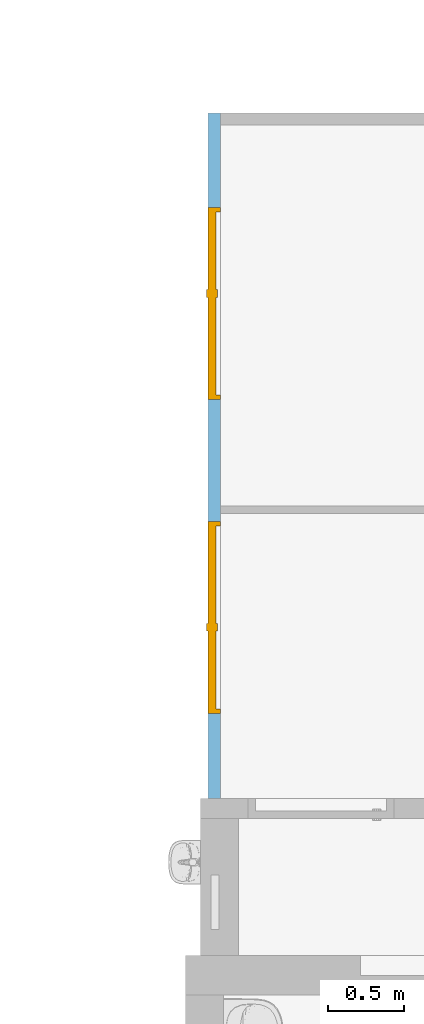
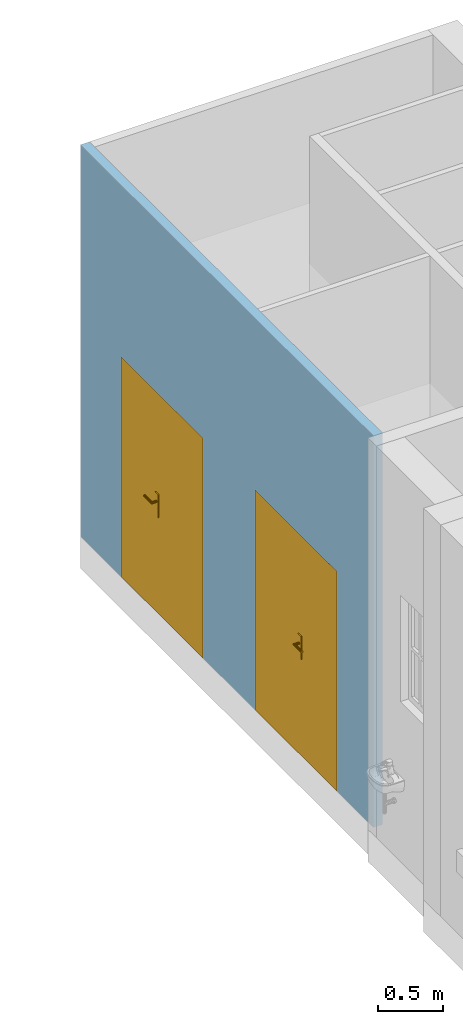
"""IFC4 building model written with IfcOpenShell, lengths in metres."""

from ifc_helpers import new_model, entity, si_unit, converted_unit, derived_unit, frame, frame_2d, origin, origin_with_axes, place, context, subcontext, project, spatial, polyline, rectangle, outline, extrude, faceted_brep, source, transform, mapped, material, layer, layer_set, layer_usage, type_object, element, fill, save


model = new_model("IFC4")

# Units and contexts
model_context = context("Model", 3, precision=1e-05, world=origin())
body_context = subcontext(model_context, "Body", "Model", "MODEL_VIEW")
ifc_project = project(units=[si_unit("LENGTHUNIT", "METRE"), si_unit("AREAUNIT", "SQUARE_METRE"), si_unit("VOLUMEUNIT", "CUBIC_METRE"), si_unit("MASSUNIT", "GRAM", prefix="KILO"), converted_unit("PLANEANGLEUNIT", "DEGREE", entity("IfcPlaneAngleMeasure", 0.0174532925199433), si_unit("PLANEANGLEUNIT", "RADIAN"), dimensions=[0, 0, 0, 0, 0, 0, 0]), derived_unit("THERMALTRANSMITTANCEUNIT", [(si_unit("POWERUNIT", "WATT"), 1), (si_unit("THERMODYNAMICTEMPERATUREUNIT", "KELVIN"), -1), (si_unit("LENGTHUNIT", "METRE"), -2)]), derived_unit("VOLUMETRICFLOWRATEUNIT", [(si_unit("LENGTHUNIT", "METRE"), 3), (converted_unit("TIMEUNIT", "hour", entity("IfcTimeMeasure", 3600.0), si_unit("TIMEUNIT", "SECOND"), dimensions=[0, 0, 1, 0, 0, 0, 0]), -1), (si_unit("LENGTHUNIT", "METRE"), -1)])], contexts=[model_context])

# Building, storeys
building_placement = place(None, origin())
building = spatial("IfcBuilding", under=ifc_project, at=building_placement, Name="Bestandsgebäude A - Sporthalle / Wohnhaus (TB 100-499)   ANPASSEN !!!", CompositionType="ELEMENT")
storey_1_placement = place(building_placement, origin())
storey_1 = spatial("IfcBuildingStorey", under=building, at=storey_1_placement, Name="Geb. A Erdgeschoss (TB 200-249)", CompositionType="ELEMENT", Elevation=0.0)
storey_2_placement = place(storey_1_placement, origin())
storey_2 = spatial("IfcBuildingStorey", under=storey_1, at=storey_2_placement, Name="Architektur (TB 200-209)", CompositionType="PARTIAL")

# Wall, openings, doors
ifc_material = material(Name="concrete")
ifc_layer = layer(ifc_material, 0.08)
ifc_layer_set = layer_set([ifc_layer])
ifc_layer_usage = layer_usage(ifc_layer_set, "AXIS2", "POSITIVE", 0.0)
wall_placement = place(storey_2_placement, frame((-3.34, 21.76, 0.0), z_axis=(0.0, 0.0, 1.0), x_axis=(0.0, -1.0, 0.0)))
wall = element("IfcWall", 1, at=wall_placement, inside=storey_2, material=ifc_layer_usage, Name="reinforced - bearing", PredefinedType="USERDEFINED", context=body_context, shape_type="SweptSolid", body=[
    extrude(rectangle(XDim=4.50000000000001, YDim=0.08, at=frame_2d((2.25, 0.04), x_axis=(1.0, 0.0))), origin_with_axes(), (0.0, 0.0, 1.0), 3.67),
])
opening_1_placement = place(wall_placement, frame((3.94, 0.08, 0.0), z_axis=(0.0, -1.0, 0.0), x_axis=(0.0, 0.0, 1.0)))
opening_1 = element("IfcOpeningElement", 2, at=opening_1_placement, cuts=wall, Name="Door opening", PredefinedType="OPENING", context=body_context, shape_type="SweptSolid", body=[
    extrude(outline(polyline([(2.06, 1.26), (2.06, 0.0), (0.0, 0.0), (0.0, 1.26), (2.06, 1.26)])), origin_with_axes(), (0.0, 0.0, 1.0), 0.08),
])
opening_2_placement = place(wall_placement, frame((1.87999999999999, 0.08, 0.0), z_axis=(0.0, -1.0, 0.0), x_axis=(0.0, 0.0, 1.0)))
opening_2 = element("IfcOpeningElement", 3, at=opening_2_placement, cuts=wall, Name="Door opening", PredefinedType="OPENING", context=body_context, shape_type="SweptSolid", body=[
    extrude(outline(polyline([(2.06, 1.26), (2.06, 0.0), (0.0, 0.0), (0.0, 1.26), (2.06, 1.26)])), origin_with_axes(), (0.0, 0.0, 1.0), 0.08),
])
door_type_1 = type_object("IfcDoorType", Name="door", OperationType="DOUBLE_DOOR_SINGLE_SWING", ParameterTakesPrecedence=False, PredefinedType="DOOR")
shared_shape_1 = source(origin_with_axes(), body_context, "Body", "Brep", [
    faceted_brep([(0.0, 0.0799999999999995, 2.06), (0.0, 0.0799999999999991, 0.0), (0.0299999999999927, 0.0799999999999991, 0.0), (0.0299999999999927, 0.0799999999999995, 2.06), (0.0, 0.0, 0.0), (0.0, 0.0, 2.06), (0.0299999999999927, 0.0, 2.06), (0.0299999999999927, 0.0, 0.0)], [[[0, 1, 2, 3]], [[4, 5, 6, 7]], [[1, 0, 5, 4]], [[2, 1, 4, 7]], [[3, 2, 7, 6]], [[0, 3, 6, 5]]], orient=[[False], [False], [False], [False], [False], [False]]),
    faceted_brep([(1.23, 0.0799999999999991, 2.06), (1.23, 0.0799999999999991, 0.0), (1.26, 0.0799999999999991, 0.0), (1.26, 0.0799999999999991, 2.06), (1.23, 0.0, 0.0), (1.23, 0.0, 2.06), (1.26, 0.0, 2.06), (1.26, 0.0, 0.0)], [[[0, 1, 2, 3]], [[4, 5, 6, 7]], [[1, 0, 5, 4]], [[2, 1, 4, 7]], [[3, 2, 7, 6]], [[0, 3, 6, 5]]], orient=[[False], [False], [False], [False], [False], [False]]),
    faceted_brep([(0.0299999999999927, 0.0799999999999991, 2.06), (0.0299999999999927, 0.0799999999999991, 2.03), (1.23, 0.0799999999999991, 2.03), (1.23, 0.0799999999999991, 2.06), (0.0299999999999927, 0.0, 2.03), (0.0299999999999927, 0.0, 2.06), (1.23, 0.0, 2.06), (1.23, 0.0, 2.03)], [[[0, 1, 2, 3]], [[4, 5, 6, 7]], [[1, 0, 5, 4]], [[2, 1, 4, 7]], [[3, 2, 7, 6]], [[0, 3, 6, 5]]], orient=[[False], [False], [False], [False], [False], [False]]),
    faceted_brep([(0.0299999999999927, 0.0799999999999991, 2.03), (0.0299999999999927, 0.0799999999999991, 0.0), (0.629499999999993, 0.0799999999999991, 0.0), (0.629499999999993, 0.0799999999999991, 2.03), (0.0299999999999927, 0.0299999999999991, 0.0), (0.0299999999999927, 0.0299999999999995, 2.03), (0.629499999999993, 0.0299999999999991, 2.03), (0.629499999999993, 0.0299999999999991, 0.0)], [[[0, 1, 2, 3]], [[4, 5, 6, 7]], [[1, 0, 5, 4]], [[2, 1, 4, 7]], [[3, 2, 7, 6]], [[0, 3, 6, 5]]], orient=[[False], [False], [False], [False], [False], [False]]),
    faceted_brep([(0.539499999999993, 0.0299999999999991, 1.125), (0.539499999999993, 0.0299999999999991, 0.91), (0.589499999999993, 0.0299999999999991, 0.91), (0.589499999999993, 0.0299999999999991, 1.125), (0.539499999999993, 0.0199999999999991, 0.91), (0.539499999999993, 0.0199999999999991, 1.125), (0.589499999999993, 0.0199999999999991, 1.125), (0.589499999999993, 0.0199999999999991, 0.91)], [[[0, 1, 2, 3]], [[4, 5, 6, 7]], [[1, 0, 5, 4]], [[2, 1, 4, 7]], [[3, 2, 7, 6]], [[0, 3, 6, 5]]], orient=[[False], [False], [False], [False], [False], [False]]),
    faceted_brep([(0.564499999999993, 0.0199999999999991, 1.06), (0.559499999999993, 0.0199999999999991, 1.05866025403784), (0.555839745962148, 0.0199999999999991, 1.055), (0.554499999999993, 0.0199999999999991, 1.05), (0.555839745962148, 0.0199999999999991, 1.045), (0.559499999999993, 0.0199999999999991, 1.04133974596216), (0.564499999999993, 0.0199999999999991, 1.04), (0.569499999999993, 0.0199999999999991, 1.04133974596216), (0.573160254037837, 0.0199999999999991, 1.045), (0.574499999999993, 0.0199999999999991, 1.05), (0.573160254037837, 0.0199999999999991, 1.055), (0.569499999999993, 0.0199999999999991, 1.05866025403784), (0.569499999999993, -0.0250000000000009, 1.05866025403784), (0.564499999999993, -0.0200000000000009, 1.06), (0.573160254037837, -0.0286602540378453, 1.055), (0.574499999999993, -0.0300000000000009, 1.05), (0.573160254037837, -0.0286602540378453, 1.045), (0.569499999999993, -0.0250000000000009, 1.04133974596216), (0.564499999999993, -0.0200000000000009, 1.04), (0.559499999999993, -0.0150000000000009, 1.04133974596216), (0.555839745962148, -0.0113397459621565, 1.045), (0.554499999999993, -0.0100000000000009, 1.05), (0.555839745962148, -0.0113397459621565, 1.055), (0.559499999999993, -0.0150000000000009, 1.05866025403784), (0.449499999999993, -0.0200000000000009, 1.06), (0.449499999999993, -0.0250000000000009, 1.05866025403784), (0.449499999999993, -0.0286602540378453, 1.055), (0.449499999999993, -0.0300000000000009, 1.05), (0.449499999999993, -0.0286602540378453, 1.045), (0.449499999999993, -0.0250000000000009, 1.04133974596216), (0.449499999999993, -0.0200000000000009, 1.04), (0.449499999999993, -0.0150000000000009, 1.04133974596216), (0.449499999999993, -0.0113397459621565, 1.045), (0.449499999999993, -0.0100000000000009, 1.05), (0.449499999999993, -0.0113397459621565, 1.055), (0.449499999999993, -0.0150000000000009, 1.05866025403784)], [[[0, 1, 2, 3, 4, 5, 6, 7, 8, 9, 10, 11]], [[0, 11, 12, 13]], [[11, 10, 14, 12]], [[10, 9, 15, 14]], [[9, 8, 16, 15]], [[8, 7, 17, 16]], [[7, 6, 18, 17]], [[6, 5, 19, 18]], [[5, 4, 20, 19]], [[4, 3, 21, 20]], [[3, 2, 22, 21]], [[2, 1, 23, 22]], [[1, 0, 13, 23]], [[24, 25, 26, 27, 28, 29, 30, 31, 32, 33, 34, 35]], [[13, 12, 25, 24]], [[12, 14, 26, 25]], [[14, 15, 27, 26]], [[15, 16, 28, 27]], [[16, 17, 29, 28]], [[17, 18, 30, 29]], [[18, 19, 31, 30]], [[19, 20, 32, 31]], [[20, 21, 33, 32]], [[21, 22, 34, 33]], [[22, 23, 35, 34]], [[23, 13, 24, 35]]], orient=[[False], [False], [False], [False], [False], [False], [False], [False], [False], [False], [False], [False], [False], [False], [False], [False], [False], [False], [False], [False], [False], [False], [False], [False], [False], [False]]),
    faceted_brep([(0.539499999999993, 0.0799999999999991, 1.125), (0.589499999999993, 0.0799999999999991, 1.125), (0.589499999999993, 0.0799999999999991, 0.91), (0.539499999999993, 0.0799999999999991, 0.91), (0.539499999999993, 0.0899999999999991, 0.91), (0.589499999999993, 0.0899999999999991, 0.91), (0.589499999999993, 0.0899999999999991, 1.125), (0.539499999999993, 0.0899999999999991, 1.125)], [[[0, 1, 2, 3]], [[4, 5, 6, 7]], [[3, 4, 7, 0]], [[2, 5, 4, 3]], [[1, 6, 5, 2]], [[0, 7, 6, 1]]], orient=[[False], [False], [False], [False], [False], [False]]),
    faceted_brep([(0.564499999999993, 0.0899999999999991, 1.06), (0.569499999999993, 0.0899999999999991, 1.05866025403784), (0.573160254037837, 0.0899999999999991, 1.055), (0.574499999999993, 0.0899999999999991, 1.05), (0.573160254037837, 0.0899999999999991, 1.045), (0.569499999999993, 0.0899999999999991, 1.04133974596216), (0.564499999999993, 0.0899999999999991, 1.04), (0.559499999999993, 0.0899999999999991, 1.04133974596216), (0.555839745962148, 0.0899999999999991, 1.045), (0.554499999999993, 0.0899999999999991, 1.05), (0.555839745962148, 0.0899999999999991, 1.055), (0.559499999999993, 0.0899999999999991, 1.05866025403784), (0.564499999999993, 0.129999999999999, 1.06), (0.569499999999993, 0.134999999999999, 1.05866025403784), (0.573160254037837, 0.138660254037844, 1.055), (0.574499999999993, 0.139999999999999, 1.05), (0.573160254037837, 0.138660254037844, 1.045), (0.569499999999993, 0.134999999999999, 1.04133974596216), (0.564499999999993, 0.129999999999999, 1.04), (0.559499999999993, 0.124999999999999, 1.04133974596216), (0.555839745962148, 0.121339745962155, 1.045), (0.554499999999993, 0.119999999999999, 1.05), (0.555839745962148, 0.121339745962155, 1.055), (0.559499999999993, 0.124999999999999, 1.05866025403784), (0.449499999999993, 0.129999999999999, 1.06), (0.449499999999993, 0.124999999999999, 1.05866025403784), (0.449499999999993, 0.121339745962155, 1.055), (0.449499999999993, 0.119999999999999, 1.05), (0.449499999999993, 0.121339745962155, 1.045), (0.449499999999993, 0.124999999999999, 1.04133974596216), (0.449499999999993, 0.129999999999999, 1.04), (0.449499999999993, 0.134999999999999, 1.04133974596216), (0.449499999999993, 0.138660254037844, 1.045), (0.449499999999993, 0.139999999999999, 1.05), (0.449499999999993, 0.138660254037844, 1.055), (0.449499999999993, 0.134999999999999, 1.05866025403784)], [[[0, 1, 2, 3, 4, 5, 6, 7, 8, 9, 10, 11]], [[0, 12, 13, 1]], [[1, 13, 14, 2]], [[2, 14, 15, 3]], [[3, 15, 16, 4]], [[4, 16, 17, 5]], [[5, 17, 18, 6]], [[6, 18, 19, 7]], [[7, 19, 20, 8]], [[8, 20, 21, 9]], [[9, 21, 22, 10]], [[10, 22, 23, 11]], [[11, 23, 12, 0]], [[24, 25, 26, 27, 28, 29, 30, 31, 32, 33, 34, 35]], [[12, 24, 35, 13]], [[13, 35, 34, 14]], [[14, 34, 33, 15]], [[15, 33, 32, 16]], [[16, 32, 31, 17]], [[17, 31, 30, 18]], [[18, 30, 29, 19]], [[19, 29, 28, 20]], [[20, 28, 27, 21]], [[21, 27, 26, 22]], [[22, 26, 25, 23]], [[23, 25, 24, 12]]], orient=[[False], [False], [False], [False], [False], [False], [False], [False], [False], [False], [False], [False], [False], [False], [False], [False], [False], [False], [False], [False], [False], [False], [False], [False], [False], [False]]),
    faceted_brep([(0.630499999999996, 0.0799999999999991, 2.03), (0.630499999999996, 0.0799999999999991, 0.0), (1.23, 0.0799999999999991, 0.0), (1.23, 0.0799999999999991, 2.03), (0.630499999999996, 0.0299999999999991, 0.0), (0.630499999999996, 0.0299999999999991, 2.03), (1.23, 0.0299999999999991, 2.03), (1.23, 0.0299999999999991, 0.0)], [[[0, 1, 2, 3]], [[4, 5, 6, 7]], [[1, 0, 5, 4]], [[2, 1, 4, 7]], [[3, 2, 7, 6]], [[0, 3, 6, 5]]], orient=[[False], [False], [False], [False], [False], [False]]),
])
door_1_placement = place(opening_1_placement, frame((0.0, 0.0, 0.0), z_axis=(1.0, 0.0, 0.0), x_axis=(0.0, 1.0, 0.0)))
door_1 = element("IfcDoor", 4, at=door_1_placement, inside=storey_2, type_object=door_type_1, Name="door", OverallHeight=2.06, OverallWidth=1.26, PredefinedType="DOOR", context=body_context, shape_type="MappedRepresentation", body=[
    mapped(shared_shape_1, transform((0.0, 0.0, 0.0), x_axis=(1.0, 0.0, 0.0), y_axis=(0.0, 1.0, 0.0), z_axis=(0.0, 0.0, 1.0), scale=1.0)),
])
fill(opening_1, door_1)
door_type_2 = type_object("IfcDoorType", Name="door", OperationType="DOUBLE_DOOR_SINGLE_SWING", ParameterTakesPrecedence=False, PredefinedType="DOOR")
shared_shape_2 = source(origin_with_axes(), body_context, "Body", "Brep", [
    faceted_brep([(1.26, 0.0799999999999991, 2.06), (1.23, 0.0799999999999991, 2.06), (1.23, 0.0799999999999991, 0.0), (1.26, 0.0799999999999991, 0.0), (1.26, 0.0, 0.0), (1.23, 0.0, 0.0), (1.23, 0.0, 2.06), (1.26, 0.0, 2.06)], [[[0, 1, 2, 3]], [[4, 5, 6, 7]], [[3, 4, 7, 0]], [[2, 5, 4, 3]], [[1, 6, 5, 2]], [[0, 7, 6, 1]]], orient=[[False], [False], [False], [False], [False], [False]]),
    faceted_brep([(0.0299999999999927, 0.0799999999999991, 2.06), (0.0, 0.0799999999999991, 2.06), (0.0, 0.0799999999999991, 0.0), (0.0299999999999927, 0.0799999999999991, 0.0), (0.0299999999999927, 0.0, 0.0), (0.0, 0.0, 0.0), (0.0, 0.0, 2.06), (0.0299999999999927, 0.0, 2.06)], [[[0, 1, 2, 3]], [[4, 5, 6, 7]], [[3, 4, 7, 0]], [[2, 5, 4, 3]], [[1, 6, 5, 2]], [[0, 7, 6, 1]]], orient=[[False], [False], [False], [False], [False], [False]]),
    faceted_brep([(1.23, 0.0799999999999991, 2.06), (0.0299999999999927, 0.0799999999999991, 2.06), (0.0299999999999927, 0.0799999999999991, 2.03), (1.23, 0.0799999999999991, 2.03), (1.23, 0.0, 2.03), (0.0299999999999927, 0.0, 2.03), (0.0299999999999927, 0.0, 2.06), (1.23, 0.0, 2.06)], [[[0, 1, 2, 3]], [[4, 5, 6, 7]], [[3, 4, 7, 0]], [[2, 5, 4, 3]], [[1, 6, 5, 2]], [[0, 7, 6, 1]]], orient=[[False], [False], [False], [False], [False], [False]]),
    faceted_brep([(1.23, 0.0799999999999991, 2.03), (0.630499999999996, 0.0799999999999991, 2.03), (0.630499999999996, 0.0799999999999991, 0.0), (1.23, 0.0799999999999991, 0.0), (1.23, 0.0299999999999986, 0.0), (0.630499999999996, 0.0299999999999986, 0.0), (0.630499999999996, 0.0299999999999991, 2.03), (1.23, 0.0299999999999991, 2.03)], [[[0, 1, 2, 3]], [[4, 5, 6, 7]], [[3, 4, 7, 0]], [[2, 5, 4, 3]], [[1, 6, 5, 2]], [[0, 7, 6, 1]]], orient=[[False], [False], [False], [False], [False], [False]]),
    faceted_brep([(0.720499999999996, 0.0299999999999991, 1.125), (0.670499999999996, 0.0299999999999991, 1.125), (0.670499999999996, 0.0299999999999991, 0.91), (0.720499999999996, 0.0299999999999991, 0.91), (0.720499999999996, 0.0199999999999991, 0.91), (0.670499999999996, 0.0199999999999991, 0.91), (0.670499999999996, 0.0199999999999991, 1.125), (0.720499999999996, 0.0199999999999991, 1.125)], [[[0, 1, 2, 3]], [[4, 5, 6, 7]], [[3, 4, 7, 0]], [[2, 5, 4, 3]], [[1, 6, 5, 2]], [[0, 7, 6, 1]]], orient=[[False], [False], [False], [False], [False], [False]]),
    faceted_brep([(0.695499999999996, 0.0199999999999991, 1.06), (0.690499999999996, 0.0199999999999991, 1.05866025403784), (0.686839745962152, 0.0199999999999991, 1.055), (0.685499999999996, 0.0199999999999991, 1.05), (0.686839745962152, 0.0199999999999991, 1.045), (0.690499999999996, 0.0199999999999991, 1.04133974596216), (0.695499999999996, 0.0199999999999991, 1.04), (0.700499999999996, 0.0199999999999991, 1.04133974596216), (0.704160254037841, 0.0199999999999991, 1.045), (0.705499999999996, 0.0199999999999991, 1.05), (0.704160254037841, 0.0199999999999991, 1.055), (0.700499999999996, 0.0199999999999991, 1.05866025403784), (0.695499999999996, -0.0200000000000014, 1.06), (0.690499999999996, -0.0250000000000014, 1.05866025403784), (0.686839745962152, -0.0286602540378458, 1.055), (0.685499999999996, -0.0300000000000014, 1.05), (0.686839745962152, -0.0286602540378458, 1.045), (0.690499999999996, -0.0250000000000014, 1.04133974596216), (0.695499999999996, -0.0200000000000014, 1.04), (0.700499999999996, -0.0150000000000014, 1.04133974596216), (0.704160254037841, -0.0113397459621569, 1.045), (0.705499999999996, -0.0100000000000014, 1.05), (0.704160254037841, -0.0113397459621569, 1.055), (0.700499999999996, -0.0150000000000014, 1.05866025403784), (0.810499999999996, -0.0200000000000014, 1.06), (0.810499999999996, -0.0150000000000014, 1.05866025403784), (0.810499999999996, -0.0113397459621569, 1.055), (0.810499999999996, -0.0100000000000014, 1.05), (0.810499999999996, -0.0113397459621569, 1.045), (0.810499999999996, -0.0150000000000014, 1.04133974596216), (0.810499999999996, -0.0200000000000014, 1.04), (0.810499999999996, -0.0250000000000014, 1.04133974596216), (0.810499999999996, -0.0286602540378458, 1.045), (0.810499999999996, -0.0300000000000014, 1.05), (0.810499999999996, -0.0286602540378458, 1.055), (0.810499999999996, -0.0250000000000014, 1.05866025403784)], [[[0, 1, 2, 3, 4, 5, 6, 7, 8, 9, 10, 11]], [[0, 12, 13, 1]], [[1, 13, 14, 2]], [[2, 14, 15, 3]], [[3, 15, 16, 4]], [[4, 16, 17, 5]], [[5, 17, 18, 6]], [[6, 18, 19, 7]], [[7, 19, 20, 8]], [[8, 20, 21, 9]], [[9, 21, 22, 10]], [[10, 22, 23, 11]], [[11, 23, 12, 0]], [[24, 25, 26, 27, 28, 29, 30, 31, 32, 33, 34, 35]], [[12, 24, 35, 13]], [[13, 35, 34, 14]], [[14, 34, 33, 15]], [[15, 33, 32, 16]], [[16, 32, 31, 17]], [[17, 31, 30, 18]], [[18, 30, 29, 19]], [[19, 29, 28, 20]], [[20, 28, 27, 21]], [[21, 27, 26, 22]], [[22, 26, 25, 23]], [[23, 25, 24, 12]]], orient=[[False], [False], [False], [False], [False], [False], [False], [False], [False], [False], [False], [False], [False], [False], [False], [False], [False], [False], [False], [False], [False], [False], [False], [False], [False], [False]]),
    faceted_brep([(0.720499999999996, 0.0799999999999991, 1.125), (0.720499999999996, 0.0799999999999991, 0.91), (0.670499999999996, 0.0799999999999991, 0.91), (0.670499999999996, 0.0799999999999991, 1.125), (0.720499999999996, 0.0899999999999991, 0.91), (0.720499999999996, 0.0899999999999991, 1.125), (0.670499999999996, 0.0899999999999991, 1.125), (0.670499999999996, 0.0899999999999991, 0.91)], [[[0, 1, 2, 3]], [[4, 5, 6, 7]], [[1, 0, 5, 4]], [[2, 1, 4, 7]], [[3, 2, 7, 6]], [[0, 3, 6, 5]]], orient=[[False], [False], [False], [False], [False], [False]]),
    faceted_brep([(0.695499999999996, 0.0899999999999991, 1.06), (0.700499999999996, 0.0899999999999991, 1.05866025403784), (0.704160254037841, 0.0899999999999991, 1.055), (0.705499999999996, 0.0899999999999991, 1.05), (0.704160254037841, 0.0899999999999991, 1.045), (0.700499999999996, 0.0899999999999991, 1.04133974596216), (0.695499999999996, 0.0899999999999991, 1.04), (0.690499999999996, 0.0899999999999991, 1.04133974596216), (0.686839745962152, 0.0899999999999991, 1.045), (0.685499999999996, 0.0899999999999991, 1.05), (0.686839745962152, 0.0899999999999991, 1.055), (0.690499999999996, 0.0899999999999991, 1.05866025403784), (0.690499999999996, 0.134999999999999, 1.05866025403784), (0.695499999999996, 0.129999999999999, 1.06), (0.686839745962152, 0.138660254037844, 1.055), (0.685499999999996, 0.139999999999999, 1.05), (0.686839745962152, 0.138660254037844, 1.045), (0.690499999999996, 0.134999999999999, 1.04133974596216), (0.695499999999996, 0.129999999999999, 1.04), (0.700499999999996, 0.124999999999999, 1.04133974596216), (0.704160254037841, 0.121339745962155, 1.045), (0.705499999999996, 0.119999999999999, 1.05), (0.704160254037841, 0.121339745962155, 1.055), (0.700499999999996, 0.124999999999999, 1.05866025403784), (0.810499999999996, 0.129999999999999, 1.06), (0.810499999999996, 0.134999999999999, 1.05866025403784), (0.810499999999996, 0.138660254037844, 1.055), (0.810499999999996, 0.139999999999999, 1.05), (0.810499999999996, 0.138660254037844, 1.045), (0.810499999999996, 0.134999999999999, 1.04133974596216), (0.810499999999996, 0.129999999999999, 1.04), (0.810499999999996, 0.124999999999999, 1.04133974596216), (0.810499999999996, 0.121339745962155, 1.045), (0.810499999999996, 0.119999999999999, 1.05), (0.810499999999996, 0.121339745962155, 1.055), (0.810499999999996, 0.124999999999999, 1.05866025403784)], [[[0, 1, 2, 3, 4, 5, 6, 7, 8, 9, 10, 11]], [[0, 11, 12, 13]], [[11, 10, 14, 12]], [[10, 9, 15, 14]], [[9, 8, 16, 15]], [[8, 7, 17, 16]], [[7, 6, 18, 17]], [[6, 5, 19, 18]], [[5, 4, 20, 19]], [[4, 3, 21, 20]], [[3, 2, 22, 21]], [[2, 1, 23, 22]], [[1, 0, 13, 23]], [[24, 25, 26, 27, 28, 29, 30, 31, 32, 33, 34, 35]], [[13, 12, 25, 24]], [[12, 14, 26, 25]], [[14, 15, 27, 26]], [[15, 16, 28, 27]], [[16, 17, 29, 28]], [[17, 18, 30, 29]], [[18, 19, 31, 30]], [[19, 20, 32, 31]], [[20, 21, 33, 32]], [[21, 22, 34, 33]], [[22, 23, 35, 34]], [[23, 13, 24, 35]]], orient=[[False], [False], [False], [False], [False], [False], [False], [False], [False], [False], [False], [False], [False], [False], [False], [False], [False], [False], [False], [False], [False], [False], [False], [False], [False], [False]]),
    faceted_brep([(0.629499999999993, 0.0799999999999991, 2.03), (0.0299999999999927, 0.0799999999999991, 2.03), (0.0299999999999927, 0.0799999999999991, 0.0), (0.629499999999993, 0.0799999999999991, 0.0), (0.629499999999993, 0.0299999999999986, 0.0), (0.0299999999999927, 0.0299999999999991, 0.0), (0.0299999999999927, 0.0299999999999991, 2.03), (0.629499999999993, 0.0299999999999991, 2.03)], [[[0, 1, 2, 3]], [[4, 5, 6, 7]], [[3, 4, 7, 0]], [[2, 5, 4, 3]], [[1, 6, 5, 2]], [[0, 7, 6, 1]]], orient=[[False], [False], [False], [False], [False], [False]]),
])
door_2_placement = place(opening_2_placement, frame((0.0, 0.0, 0.0), z_axis=(1.0, 0.0, 0.0), x_axis=(0.0, 1.0, 0.0)))
door_2 = element("IfcDoor", 5, at=door_2_placement, inside=storey_2, type_object=door_type_2, Name="door", OverallHeight=2.06, OverallWidth=1.26, PredefinedType="DOOR", context=body_context, shape_type="MappedRepresentation", body=[
    mapped(shared_shape_2, transform((0.0, 0.0, 0.0), x_axis=(1.0, 0.0, 0.0), y_axis=(0.0, 1.0, 0.0), z_axis=(0.0, 0.0, 1.0), scale=1.0)),
])
fill(opening_2, door_2)

save(model, "model.ifc")
